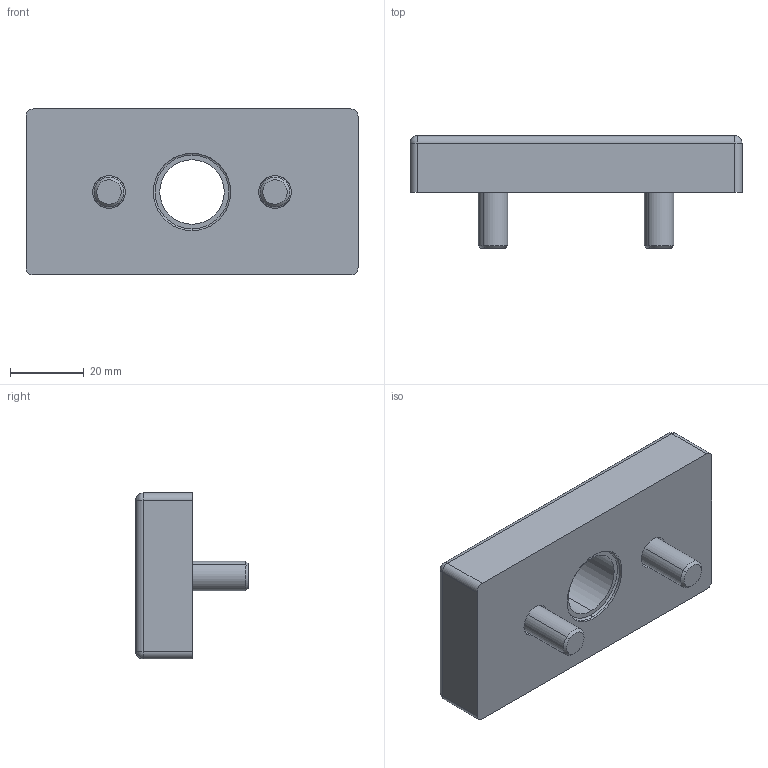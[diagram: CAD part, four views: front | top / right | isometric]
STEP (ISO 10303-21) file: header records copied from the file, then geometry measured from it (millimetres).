
FILE_DESCRIPTION (( 'STEP AP214' ), '1' );
FILE_NAME ('1.5011 Kierrelevy 45x90 M20.STEP', '2025-09-16T07:21:58', ( '' ), ( '' ), 'SwSTEP 2.0', 'SolidWorks 2025', '' );
FILE_SCHEMA (( 'AUTOMOTIVE_DESIGN' ));
Length unit declared in the file: millimetre
Products named in the file (1): 1.5011 Kierrelevy 45x90 M20
Bounding box: 90 x 30.5 x 45 mm (x, y, z)
Volume: 58427.3 mm3; surface area: 15344.9 mm2
Topology: 3 solids, 3 shells, 91 faces, 200 edges, 114 vertices
Faces by surface type: plane 39, cylinder 28, cone 10, torus 10, sphere 4
Entity records: 3478 total; most frequent: DIRECTION 470, CARTESIAN_POINT 398, ORIENTED_EDGE 384, EDGE_CURVE 192, AXIS2_PLACEMENT_3D 186, VERTEX_POINT 114, EDGE_LOOP 104, LINE 98
